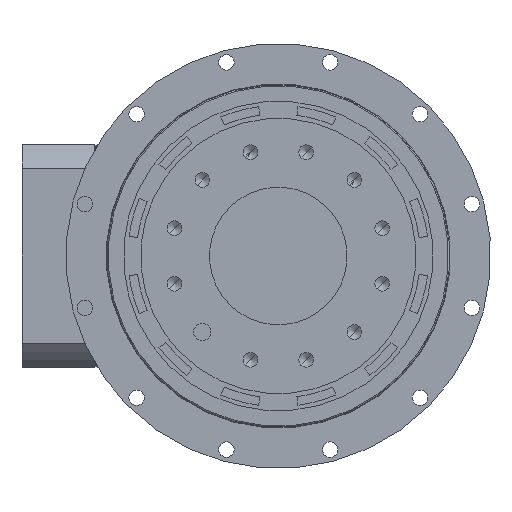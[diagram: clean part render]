
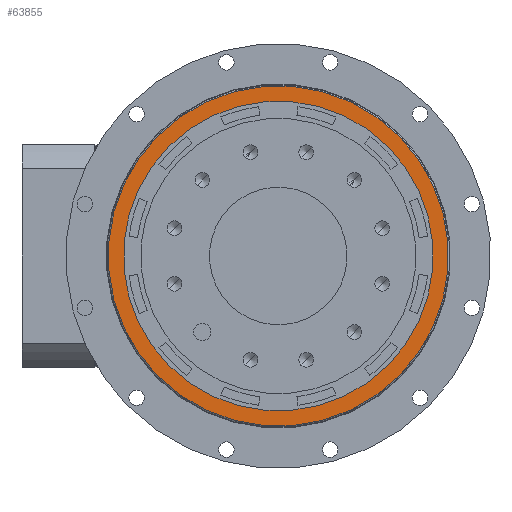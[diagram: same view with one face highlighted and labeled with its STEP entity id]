
A CAD part, left-side view. The second image highlights one B-rep face of the part: STEP entity #63855.
In plain terms, the highlighted planar face has unit normal (-1, 0, 0) as drawn and (0, 1, 0) by its records, which use the part's own axes.
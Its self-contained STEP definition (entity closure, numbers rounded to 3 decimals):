
#3738 = CARTESIAN_POINT ( 'NONE',  ( 0., 99., 98.907 ) ) ;
#7579 = AXIS2_PLACEMENT_3D ( 'NONE', #34947, #99304, #44220 ) ;
#7697 = AXIS2_PLACEMENT_3D ( 'NONE', #82028, #100505, #45431 ) ;
#12585 = VERTEX_POINT ( 'NONE', #3738 ) ;
#15250 = EDGE_LOOP ( 'NONE', ( #51562, #91660 ) ) ;
#19108 = DIRECTION ( 'NONE',  ( 0., -1., 0. ) ) ;
#22835 = EDGE_CURVE ( 'NONE', #95990, #58892, #114395, .T. ) ;
#26365 = CARTESIAN_POINT ( 'NONE',  ( 0., 99., 0. ) ) ;
#29023 = FACE_BOUND ( 'NONE', #15250, .T. ) ;
#34947 = CARTESIAN_POINT ( 'NONE',  ( 0., 99., 0. ) ) ;
#35596 = DIRECTION ( 'NONE',  ( 0., 0., 1. ) ) ;
#35816 = EDGE_CURVE ( 'NONE', #58892, #95990, #41346, .T. ) ;
#36881 = CARTESIAN_POINT ( 'NONE',  ( 0., 99., -98.907 ) ) ;
#37833 = AXIS2_PLACEMENT_3D ( 'NONE', #74110, #19108, #83453 ) ;
#38257 = CARTESIAN_POINT ( 'NONE',  ( 0., 99., 0. ) ) ;
#41346 = CIRCLE ( 'NONE', #115218, 90. ) ;
#42836 = AXIS2_PLACEMENT_3D ( 'NONE', #26365, #90718, #35596 ) ;
#44220 = DIRECTION ( 'NONE',  ( 0., 0., -1. ) ) ;
#45431 = DIRECTION ( 'NONE',  ( 0., 0., 1. ) ) ;
#46070 = CIRCLE ( 'NONE', #7579, 98.907 ) ;
#47520 = DIRECTION ( 'NONE',  ( 0., 0., 1. ) ) ;
#49833 = EDGE_LOOP ( 'NONE', ( #68088, #110639 ) ) ;
#50629 = FACE_OUTER_BOUND ( 'NONE', #49833, .T. ) ;
#51562 = ORIENTED_EDGE ( 'NONE', *, *, #22835, .T. ) ;
#58892 = VERTEX_POINT ( 'NONE', #102638 ) ;
#63855 = ADVANCED_FACE ( 'NONE', ( #50629, #29023 ), #109391, .T. ) ;
#68088 = ORIENTED_EDGE ( 'NONE', *, *, #92067, .F. ) ;
#74110 = CARTESIAN_POINT ( 'NONE',  ( 0., 99., 0. ) ) ;
#78831 = CARTESIAN_POINT ( 'NONE',  ( 0., 99., 90. ) ) ;
#81328 = EDGE_CURVE ( 'NONE', #12585, #88323, #46070, .T. ) ;
#82028 = CARTESIAN_POINT ( 'NONE',  ( 0., 99., 0. ) ) ;
#83453 = DIRECTION ( 'NONE',  ( 0., 0., -1. ) ) ;
#88323 = VERTEX_POINT ( 'NONE', #36881 ) ;
#90718 = DIRECTION ( 'NONE',  ( 0., -1., 0. ) ) ;
#91660 = ORIENTED_EDGE ( 'NONE', *, *, #35816, .T. ) ;
#92067 = EDGE_CURVE ( 'NONE', #88323, #12585, #107978, .T. ) ;
#95990 = VERTEX_POINT ( 'NONE', #78831 ) ;
#99304 = DIRECTION ( 'NONE',  ( 0., -1., 0. ) ) ;
#100505 = DIRECTION ( 'NONE',  ( 0., 1., 0. ) ) ;
#102623 = DIRECTION ( 'NONE',  ( 0., -1., 0. ) ) ;
#102638 = CARTESIAN_POINT ( 'NONE',  ( 0., 99., -90. ) ) ;
#107978 = CIRCLE ( 'NONE', #37833, 98.907 ) ;
#109391 = PLANE ( 'NONE',  #7697 ) ;
#110639 = ORIENTED_EDGE ( 'NONE', *, *, #81328, .F. ) ;
#114395 = CIRCLE ( 'NONE', #42836, 90. ) ;
#115218 = AXIS2_PLACEMENT_3D ( 'NONE', #38257, #102623, #47520 ) ;
